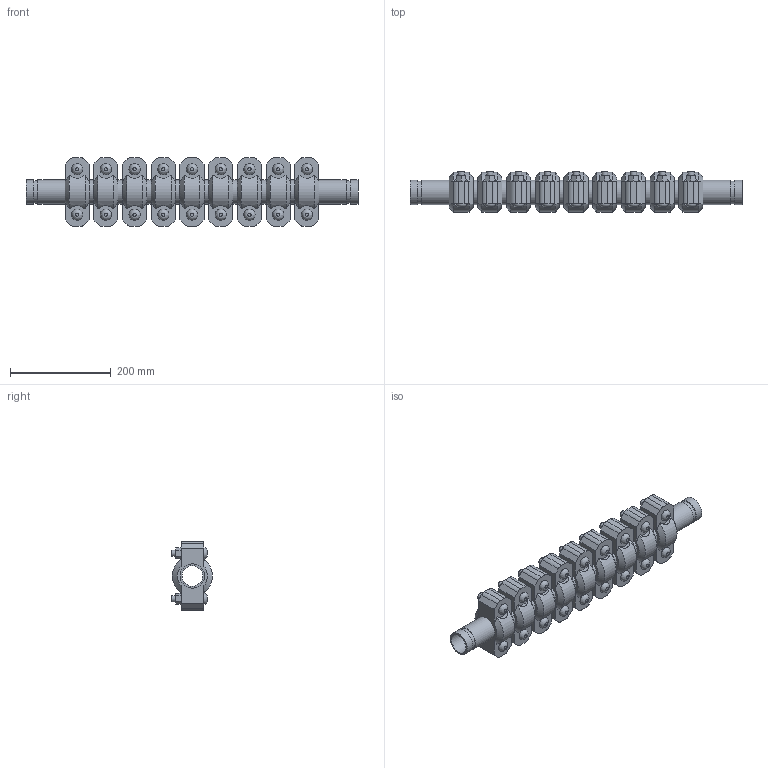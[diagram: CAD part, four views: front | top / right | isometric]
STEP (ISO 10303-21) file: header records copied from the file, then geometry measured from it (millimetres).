
FILE_DESCRIPTION(/* description */ ('VIC EXPANSION JOINT 9 COUPLINGS COMPRESSED STYLE 155 (OGS)','CAx-IF Rec.Pracs.---Representation and Presentation of Product Manufacturing Information (PMI)---4.0---2014-10-13'),/* implementation_level */ '2;1');
FILE_NAME(/* name */ 'C:\Users\kkamble\AppData\Roaming\Autodesk\ApplicationPlugins\Victaulic.Temp\A901\Victaulic_IPS_Expansion Joint_Compressed_9 Couplings_Style 155 (OGS)_1.5 (40).stp',/* time_stamp */ '2021-06-27T00:38:03+02:00',/* author */ ('kkamble'),/* organization */ ('Victaulic'),/* preprocessor_version */ 'ST-DEVELOPER v17.2',/* originating_system */ 'Autodesk Inventor 2019',/* authorisation */ '');
FILE_SCHEMA (('AP242_MANAGED_MODEL_BASED_3D_ENGINEERING_MIM_LF { 1 0 10303 442 1 1 4 }'));
Length unit declared in the file: inch
Products named in the file (4): 155-01.5; Nipple-01.5; Nipple-01.5_1; 077-01.5
Assembly tree (19 placements, depth 2):
  155-01.5
    Nipple-01.5  x2
    Nipple-01.5_1  x8
    077-01.5  x9
Bounding box: 660.4 x 81.03 x 136.65 mm (x, y, z)
Volume: 2672463.5 mm3; surface area: 605363.7 mm2
Topology: 19 solids, 37 shells, 633 faces, 1551 edges, 1086 vertices
Faces by surface type: plane 366, cylinder 213, cone 36, bspline 18
Full cylindrical faces by diameter (mm): 12.7 x36, 14.605 x18, 40.894 x10, 45.085 x20, 48.26 x39
Entity records: 2987 total; most frequent: CARTESIAN_POINT 597, DIRECTION 483, ORIENTED_EDGE 398, EDGE_CURVE 199, AXIS2_PLACEMENT_3D 194, VERTEX_POINT 142, EDGE_LOOP 105, LINE 95
